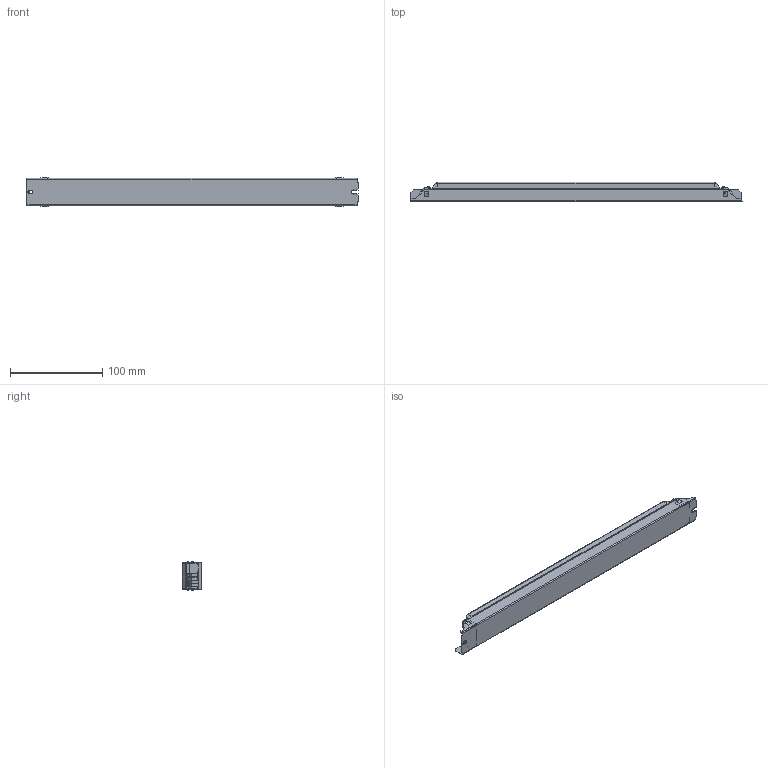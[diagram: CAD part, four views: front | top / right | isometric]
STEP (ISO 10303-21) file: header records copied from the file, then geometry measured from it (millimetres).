
FILE_DESCRIPTION (( 'STEP AP214' ), '1' );
FILE_NAME ('4194000swm000.step', '2020-02-25T05:32:50', ( 'OSRAM' ), ( 'OSRAM' ), 'SwSTEP 2.0', 'SolidWorks 2017', '' );
FILE_SCHEMA (( 'AUTOMOTIVE_DESIGN' ));
Length unit declared in the file: millimetre
Products named in the file (1): 4194000swm000
Bounding box: 359 x 21 x 31.39 mm (x, y, z)
Volume: 199352.6 mm3; surface area: 40544.6 mm2
Topology: 1 solids, 1 shells, 762 faces, 2069 edges, 1310 vertices
Faces by surface type: plane 487, cylinder 248, torus 27
Entity records: 32035 total; most frequent: CARTESIAN_POINT 5146, ORIENTED_EDGE 4138, DIRECTION 3589, EDGE_CURVE 2069, VECTOR 1577, LINE 1577, VERTEX_POINT 1310, AXIS2_PLACEMENT_3D 1006
